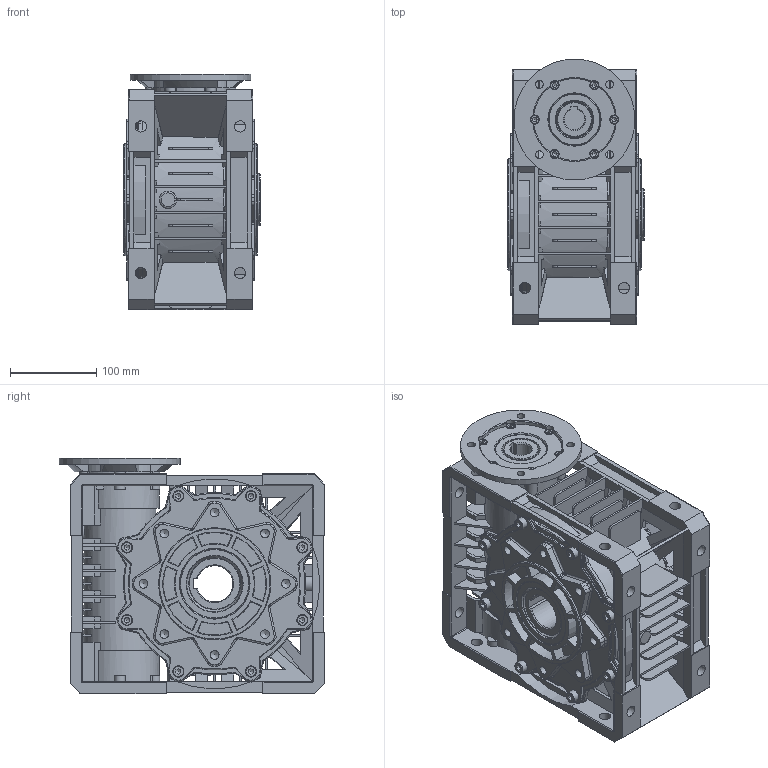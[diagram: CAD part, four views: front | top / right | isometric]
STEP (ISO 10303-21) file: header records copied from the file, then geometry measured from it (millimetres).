
FILE_DESCRIPTION((''),'2;1');
FILE_NAME('C:\Users\m.piscopiello.SITIRIDUTTORI\Desktop\FIGURINI VSF\FIG STEP\U-MU 110 STEP_old\MU 110 PAM 90 B14.stp','2016-03-08T10:13:29',('m.piscopiello'),(''),'Autodesk Inventor 2012','Autodesk Inventor 2012','');
FILE_SCHEMA(('CONFIG_CONTROL_DESIGN'));
Length unit declared in the file: millimetre
Products named in the file (1): 3F021175
Bounding box: 158.5 x 307.5 x 273 mm (x, y, z)
Volume: 6200891.6 mm3; surface area: 854244.9 mm2
Topology: 1 solids, 27 shells, 2102 faces, 5716 edges, 3623 vertices
Faces by surface type: plane 1083, cylinder 554, torus 233, cone 150, bspline 74, sphere 8
Full cylindrical faces by diameter (mm): 4.917 x12, 6 x12, 6.5 x6, 8 x24, 9 x12, 10 x6, 10.106 x16, 10.5 x6, 13 x24, 20 x1, 32 x1, 40 x2, 43.75 x1, 45.438 x1, 49 x1, 56.6 x1, 60 x6, 66 x2, 75 x2, 76.875 x1, 78 x1, 80 x7, 84 x1, 130 x2, 140 x1
Entity records: 66471 total; most frequent: CARTESIAN_POINT 14739, DIRECTION 10889, ORIENTED_EDGE 10606, EDGE_CURVE 5303, AXIS2_PLACEMENT_3D 4042, VERTEX_POINT 3518, VECTOR 2805, LINE 2805
